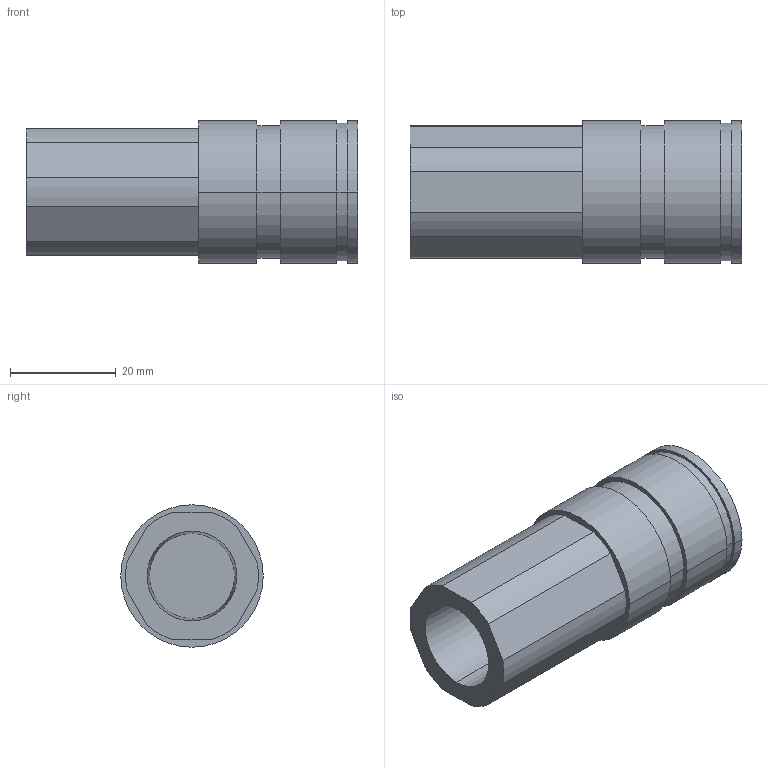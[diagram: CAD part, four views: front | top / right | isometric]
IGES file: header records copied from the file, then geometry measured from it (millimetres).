
Global section: file name: No Iges File Name specified; native system: Autodesk Inventor 2009; preprocessor: AutoDesk Inventor Iges Exporter R2009; author: y-shimohigashi; date: 20080701.112913; units: millimetre
Bounding box: 62.9 x 27 x 27 mm (x, y, z)
Volume: 23360.4 mm3; surface area: 8488.4 mm2
Topology: 1 solids, 1 shells, 35 faces, 78 edges, 52 vertices
Faces by surface type: cylinder 16, plane 15, revolution 4
